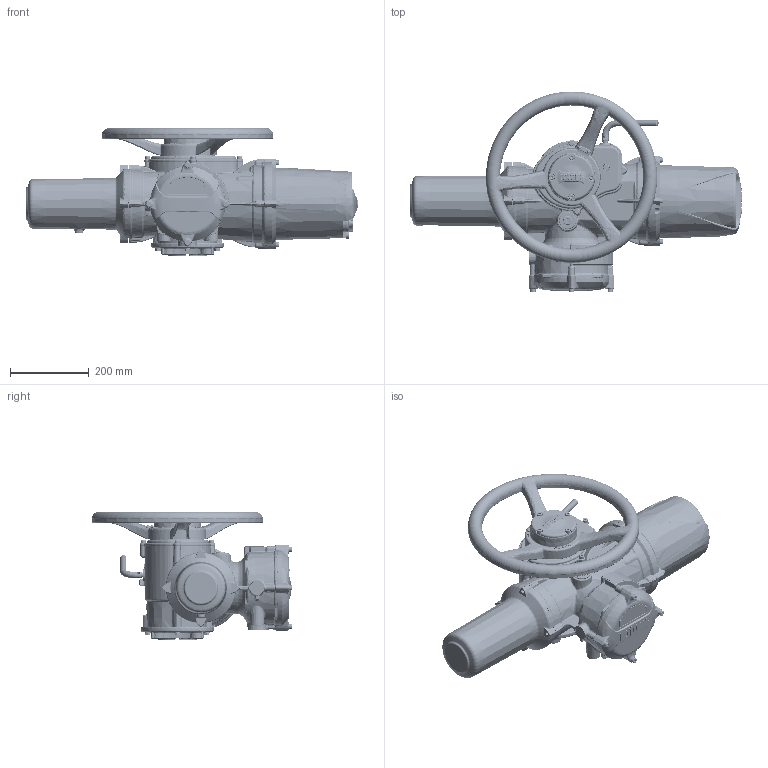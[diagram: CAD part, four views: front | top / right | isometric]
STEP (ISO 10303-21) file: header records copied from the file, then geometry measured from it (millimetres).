
FILE_DESCRIPTION(/* description */ ('Unknown'),/* implementation_level */ '2;1');
FILE_NAME(/* name */ 'IQ3H-2SP-THW-B3B4-1',/* time_stamp */ '2021-03-29T11:40:24+01:00',/* author */ ('Unknown'),/* organization */ ('Unknown'),/* preprocessor_version */ 'ST-DEVELOPER v16.7',/* originating_system */ 'Solid Edge',/* authorisation */ 'Unknown');
FILE_SCHEMA (('AUTOMOTIVE_DESIGN {1 0 10303 214 3 1 1}'));
Length unit declared in the file: millimetre
Products named in the file (1): IQ3H-2SP-THW-B3B4-1
Bounding box: 843.5 x 510.12 x 325.74 mm (x, y, z)
Volume: 13516.3 mm3; surface area: 1282881 mm2
Topology: 41 solids, 42 shells, 6272 faces, 15771 edges, 9439 vertices
Faces by surface type: bspline 2473, plane 1671, cylinder 743, torus 635, cone 556, sphere 194
Full cylindrical faces by diameter (mm): 1.152 x1, 3 x8, 3.54 x2, 4 x2, 6 x3, 6.45 x8, 6.47 x8, 6.5 x1, 7 x4, 7.6 x4, 8 x20, 8.1 x1, 8.2 x1, 8.5 x4, 10 x1, 11.78 x1, 13 x12, 13.25 x4, 14.376 x4, 15.5 x1, 15.84 x1, 16 x4, 24.78 x1, 65 x1, 120.155 x1, 126.9 x1, 132.5 x1, 135.75 x2, 136.75 x1, 139.927 x1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
Entity records: 278509 total; most frequent: CARTESIAN_POINT 107755, ORIENTED_EDGE 29902, DIRECTION 21538, EDGE_CURVE 14951, VERTEX_POINT 9206, AXIS2_PLACEMENT_3D 9011, FACE_BOUND 6831, EDGE_LOOP 6810
